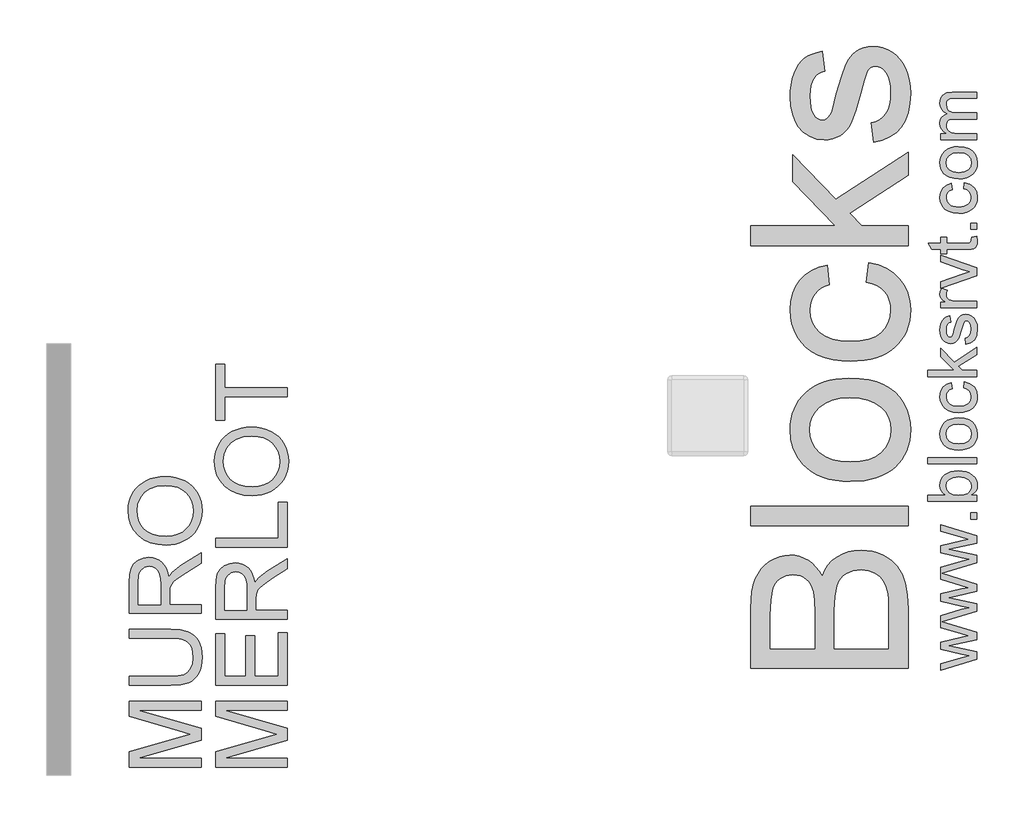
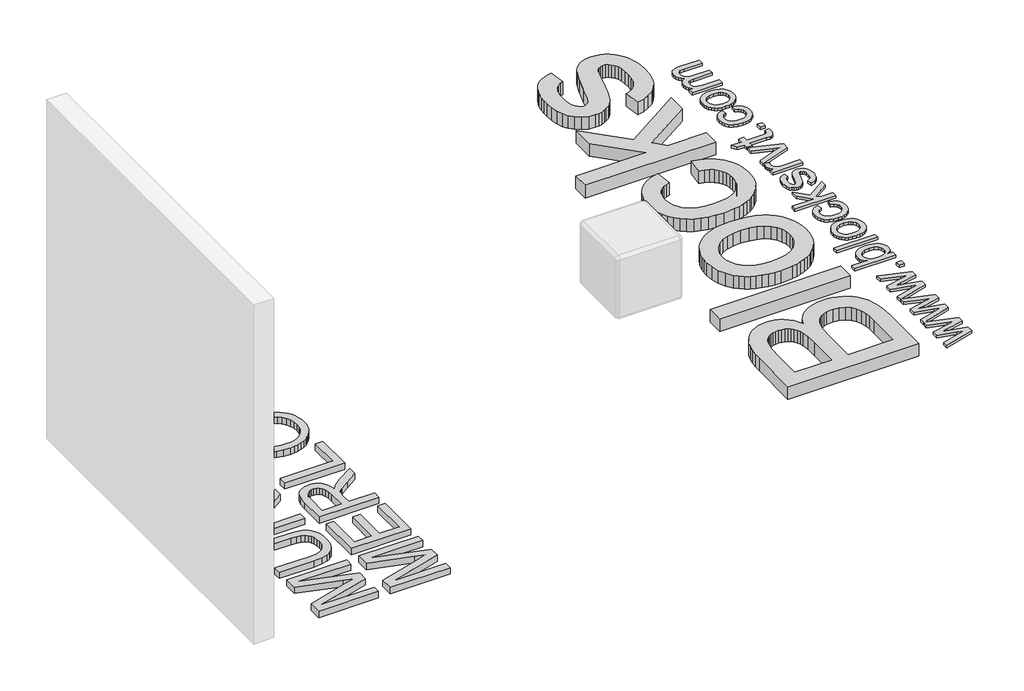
# One storey, part 11 of 11: 3 proxies.
"""IFC4 building model written with IfcOpenShell, lengths in millimetres."""

from ifc_helpers import new_model, si_unit, origin, origin_with_axes, place, context, project, spatial, polyline, outline, extrude, element, save

model = new_model("IFC4")

# Units and contexts
model_context = context("Model", 3, world=origin())
ifc_project = project(units=[si_unit("LENGTHUNIT", "METRE", prefix="MILLI")], contexts=[model_context])

# Site, building, storey
site = spatial("IfcSite", under=ifc_project)
building = spatial("IfcBuilding", under=site)
storey = spatial("IfcBuildingStorey", under=building, Name="PORTOBELLO - SHOWROOM", Elevation=0.0)

# Proxies
placement = place(None, origin())
element("IfcBuildingElementProxy", 1, Name="25mm OpenSans", ObjectType="25mm OpenSans", at=placement, inside=storey, context=model_context, shape_type="SweptSolid", body=[
    extrude(outline(polyline([(-17784.7872836, 5833.8034921), (-18002.4019578, 5767.607539), (-17784.7872836, 5700.9051688), (-17784.7872836, 5654.5069386), (-17917.0109961, 5625.0489346), (-17958.2372103, 5616.5038648), (-17784.7872836, 5578.5007909), (-17784.7872836, 5531.5778635), (-18002.4019578, 5465.3819104), (-17784.7872836, 5398.6795402), (-17784.7872836, 5352.28131), (-17917.0109961, 5322.823306), (-17958.2372103, 5314.2782361), (-17784.7872836, 5276.2751623), (-17784.7872836, 5229.3522348), (-18010.257197, 5160.7668057), (-18010.257197, 5200.6437984), (-17878.7080952, 5239.5463533), (-17831.710211, 5251.16465), (-17876.9840899, 5260.6841577), (-18010.257197, 5291.6412967), (-18010.257197, 5337.3649161), (-17877.3588737, 5368.1721416), (-17836.3575297, 5376.6422548), (-17879.6075763, 5388.7852488), (-18010.257197, 5427.7627604), (-18010.257197, 5462.9924344), (-18010.257197, 5467.7896666), (-18010.257197, 5502.869427), (-17878.7080952, 5541.7719819), (-17831.710211, 5553.3902786), (-17876.9840899, 5562.9097863), (-18010.257197, 5593.8669253), (-18010.257197, 5639.5905447), (-17877.3588737, 5670.3977703), (-17836.3575297, 5678.8678834), (-17879.6075763, 5691.0108774), (-18010.257197, 5729.988389), (-18010.257197, 5765.218063), (-18010.257197, 5770.0152952), (-18010.257197, 5805.0950556), (-17878.7080952, 5843.9976105), (-17831.710211, 5855.6159073), (-17876.9840899, 5865.1354149), (-18010.257197, 5896.092554), (-18010.257197, 5941.8161734), (-17877.3588737, 5972.6233989), (-17836.3575297, 5981.093512), (-17879.6075763, 5993.236506), (-18010.257197, 6032.2140176), (-18010.257197, 6072.2409238), (-17784.7872836, 6003.1307974), (-17784.7872836, 5956.7325672), (-17917.0109961, 5927.2745633), (-17958.2372103, 5918.7294934), (-17784.7872836, 5880.7264196), (-17784.7872836, 5833.8034921)])), origin_with_axes(), (0.0, 0.0, 1.0), 20.0),
    extrude(outline(polyline([(-17784.7872836, 6108.2201653), (-17823.1651412, 6108.2201653), (-17823.1651412, 6146.5980229), (-17784.7872836, 6146.5980229), (-17784.7872836, 6108.2201653)])), origin_with_axes(), (0.0, 0.0, 1.0), 20.0),
    extrude(outline(polyline([(-17784.7872836, 6256.9343635), (-17784.7872836, 6218.5565059), (-18091.8101444, 6218.5565059), (-18091.8101444, 6256.9343635), (-17977.9508364, 6256.9343635), (-17994.1836582, 6269.5552068), (-18005.778531, 6283.8063595), (-18012.7354546, 6299.6878216), (-18015.0544292, 6317.199593), (-18012.9650097, 6336.9694367), (-18006.6967512, 6355.6524074), (-17996.6431767, 6372.1803715), (-17983.1978091, 6385.4851951), (-17966.4918228, 6395.9135534), (-17946.656392, 6403.8121213), (-17924.516041, 6408.7873758), (-17900.8952942, 6410.4457939), (-17873.6391448, 6408.7288158), (-17849.6623534, 6403.5778814), (-17828.96492, 6394.9929908), (-17811.5468444, 6382.9741439), (-17797.7407475, 6368.5473113), (-17787.8792496, 6352.7384636), (-17781.9623509, 6335.5476008), (-17779.9900514, 6316.9747228), (-17782.5338962, 6298.8867213), (-17790.1654306, 6282.8506609), (-17802.8846547, 6268.8665417), (-17820.6915683, 6256.9343635), (-17784.7872836, 6256.9343635)]), holes=[polyline([(-17899.0963321, 6256.9343635), (-17867.0897985, 6259.5578499), (-17845.4272969, 6267.428309), (-17833.5888147, 6276.7276311), (-17825.1327559, 6287.535458), (-17820.0591207, 6299.8517895), (-17818.367909, 6313.6766256), (-17823.3525331, 6335.8263462), (-17838.3064053, 6354.7529264), (-17863.1358298, 6367.7391838), (-17897.7471105, 6372.0679363), (-17932.8643494, 6367.9172061), (-17957.412686, 6355.4650155), (-17971.8606002, 6337.1287198), (-17976.6765716, 6315.3256742), (-17971.6919475, 6293.1759537), (-17956.7380753, 6274.2493735), (-17932.3583913, 6261.263116), (-17899.0963321, 6256.9343635)])]), origin_with_axes(), (0.0, 0.0, 1.0), 20.0),
    extrude(outline(polyline([(-17784.7872836, 6453.6208837), (-18091.8101444, 6453.6208837), (-18091.8101444, 6491.9987413), (-17784.7872836, 6491.9987413), (-17784.7872836, 6453.6208837)])), origin_with_axes(), (0.0, 0.0, 1.0), 20.0),
    extrude(outline(polyline([(-17897.5222403, 6539.9710633), (-17926.7225804, 6542.0464284), (-17951.8846255, 6548.2725238), (-17973.0083755, 6558.6493493), (-17990.0938304, 6573.176905), (-18001.0140924, 6587.8028414), (-18008.8142795, 6603.9466521), (-18013.4943918, 6621.6083371), (-18015.0544292, 6640.7878963), (-18013.154744, 6661.9608367), (-18007.4556883, 6681.1052599), (-17997.9572623, 6698.221166), (-17984.6594658, 6713.308555), (-17968.0120394, 6725.6225441), (-17948.4647236, 6734.4182506), (-17926.0175185, 6739.6956745), (-17900.6704239, 6741.4548158), (-17861.8990434, 6738.3441105), (-17832.3848218, 6729.0119947), (-17810.2819492, 6713.7301867), (-17793.7446156, 6692.7704046), (-17783.4286924, 6667.875393), (-17779.9900514, 6640.7878963), (-17781.8827094, 6619.3057593), (-17787.5606834, 6599.9833138), (-17797.0239735, 6582.8205598), (-17810.2725796, 6567.8174971), (-17827.0816315, 6555.6346824), (-17847.2262589, 6546.9326718), (-17870.7064619, 6541.7114655), (-17897.5222403, 6539.9710633)]), holes=[polyline([(-17897.597197, 6578.3489209), (-17862.8641116, 6582.7901086), (-17838.1190134, 6596.1136714), (-17823.3056851, 6616.1646029), (-17818.367909, 6640.7878963), (-17823.3337939, 6665.2987546), (-17838.2314486, 6685.3122077), (-17849.4655919, 6693.084286), (-17863.3044825, 6698.6357705), (-17898.7965051, 6703.0769582), (-17932.5176744, 6698.6076618), (-17956.9254671, 6685.1997725), (-17971.7387955, 6665.1582107), (-17976.6765716, 6640.7878963), (-17971.7575347, 6616.1646029), (-17957.0004239, 6596.1136714), (-17932.3115433, 6582.7901086), (-17897.597197, 6578.3489209)])]), origin_with_axes(), (0.0, 0.0, 1.0), 20.0),
    extrude(outline(polyline([(-17866.340231, 6928.5468716), (-17861.5429988, 6966.9247292), (-17827.4095673, 6956.2246527), (-17801.6150747, 6936.1175036), (-17785.3963072, 6908.4959401), (-17779.9900514, 6875.2526201), (-17781.8756822, 6853.72832), (-17787.5325747, 6834.4292984), (-17796.9607288, 6817.3555555), (-17810.1601445, 6802.5070912), (-17826.8825277, 6790.4882443), (-17846.8795839, 6781.9033537), (-17870.1513134, 6776.7524193), (-17896.697716, 6775.0354412), (-17930.8498866, 6777.9681241), (-17960.4484345, 6786.766173), (-17984.3502692, 6801.5701318), (-18001.4123001, 6822.5205443), (-18011.6438969, 6847.5842086), (-18015.0544292, 6874.7279228), (-18010.3696321, 6907.1560882), (-17996.3152409, 6933.0817551), (-17973.6408231, 6951.6803995), (-17943.0959462, 6962.127497), (-17938.298714, 6923.7496394), (-17955.0421787, 6916.7880309), (-17967.0446288, 6905.9474105), (-17974.2685859, 6891.8274321), (-17976.6765716, 6875.0277498), (-17971.935557, 6850.2264342), (-17957.712513, 6830.5409169), (-17946.8531534, 6823.0475839), (-17933.2391331, 6817.6952033), (-17897.7471105, 6813.4132988), (-17861.7772386, 6817.6015074), (-17837.2195324, 6830.1661331), (-17823.0808148, 6849.4956058), (-17818.367909, 6873.9783553), (-17821.3099615, 6893.8512645), (-17830.1361192, 6910.1449887), (-17845.0712523, 6921.9975253), (-17866.340231, 6928.5468716)])), origin_with_axes(), (0.0, 0.0, 1.0), 20.0),
    extrude(outline(polyline([(-17784.7872836, 7000.5053546), (-18091.8101444, 7000.5053546), (-18091.8101444, 7038.8832122), (-17926.8303308, 7038.8832122), (-18010.257197, 7124.9335648), (-18010.257197, 7178.002946), (-17925.7809362, 7090.9031989), (-17784.7872836, 7182.8001782), (-17784.7872836, 7137.9760398), (-17899.0963321, 7063.3940705), (-17875.3350414, 7038.8832122), (-17784.7872836, 7038.8832122), (-17784.7872836, 7000.5053546)])), origin_with_axes(), (0.0, 0.0, 1.0), 20.0),
    extrude(outline(polyline([(-17851.9485344, 7201.989107), (-17856.7457666, 7240.3669646), (-17840.3302376, 7246.4197224), (-17828.2622004, 7258.1317151), (-17820.8414818, 7275.5778994), (-17818.367909, 7298.833232), (-17820.6353508, 7321.8074769), (-17827.4376761, 7337.9606572), (-17837.2944891, 7347.5176432), (-17848.725394, 7350.7033052), (-17858.5072503, 7347.498904), (-17865.9654472, 7337.8857004), (-17876.9091332, 7298.3834915), (-17895.6857998, 7240.5918349), (-17905.1209811, 7225.9658984), (-17917.6106501, 7215.3688874), (-17932.3583913, 7208.9319763), (-17948.5677892, 7206.7863392), (-17963.4373351, 7208.5103445), (-17977.1637905, 7213.6823605), (-17989.203719, 7221.8339074), (-17999.013684, 7232.4965055), (-18010.3696321, 7256.8949287), (-18015.0544292, 7289.9133784), (-18013.1711408, 7314.8927164), (-18007.5212755, 7336.6114356), (-17998.6576394, 7354.0763591), (-17987.1330387, 7366.2943099), (-17972.0948401, 7374.3896392), (-17952.6904106, 7379.4866984), (-17947.8931784, 7341.1088408), (-17959.9705852, 7336.2647606), (-17969.0684611, 7326.6796658), (-17974.774544, 7312.2598605), (-17976.6765716, 7292.9116485), (-17974.8588703, 7270.8743631), (-17969.4057665, 7256.1828395), (-17961.5353075, 7247.9188575), (-17952.4655403, 7245.1641968), (-17941.2969841, 7249.7365587), (-17932.826871, 7264.0532986), (-17924.6565849, 7297.1092267), (-17906.5920074, 7353.4392267), (-17897.9532416, 7368.3181422), (-17886.1288138, 7379.5991335), (-17871.0812456, 7386.7106555), (-17852.7730587, 7389.0811628), (-17833.8464785, 7386.2983934), (-17816.0442496, 7377.950085), (-17800.7624416, 7364.3548039), (-17789.3971239, 7345.8311163), (-17782.3418195, 7323.4565255), (-17779.9900514, 7298.3085348), (-17784.5249349, 7259.612111), (-17790.1935394, 7244.1850742), (-17798.1295856, 7231.3721542), (-17820.6540899, 7212.5205308), (-17851.9485344, 7201.989107)])), origin_with_axes(), (0.0, 0.0, 1.0), 20.0),
    extrude(outline(polyline([(-17784.7872836, 7631.4913024), (-18010.257197, 7552.1870576), (-18010.257197, 7592.8136178), (-17875.1851278, 7640.8608966), (-17829.7613355, 7655.3275499), (-17872.6365982, 7669.4943763), (-18010.257197, 7717.841482), (-18010.257197, 7758.4680422), (-17784.7872836, 7680.1382352), (-17784.7872836, 7631.4913024)])), origin_with_axes(), (0.0, 0.0, 1.0), 20.0),
    extrude(outline(polyline([(-17784.7872836, 7432.2562526), (-18010.257197, 7432.2562526), (-18010.257197, 7465.836878), (-17976.9014418, 7465.836878), (-17996.2402842, 7478.2422207), (-18007.6337106, 7489.6731255), (-18013.1992496, 7501.1415087), (-18015.0544292, 7513.6592865), (-18012.0936374, 7532.7732586), (-18003.2112622, 7552.1870576), (-17968.8061125, 7539.3694528), (-17974.7089568, 7525.8772373), (-17976.6765716, 7512.3850217), (-17974.7839136, 7500.9260081), (-17969.1059395, 7490.6850417), (-17960.0736508, 7482.4116901), (-17948.1180486, 7476.8555207), (-17926.6804173, 7472.1894629), (-17903.2939103, 7470.6341102), (-17784.7872836, 7470.6341102), (-17784.7872836, 7432.2562526)])), origin_with_axes(), (0.0, 0.0, 1.0), 20.0),
    extrude(outline(polyline([(-17816.7938172, 7873.6016151), (-17783.6629323, 7878.3988473), (-17779.9900514, 7849.6904108), (-17781.5828824, 7831.2697887), (-17786.3613754, 7817.5339637), (-17793.7258764, 7807.8270642), (-17803.0767313, 7801.4932185), (-17819.1362157, 7798.0077295), (-17846.6266049, 7796.8458999), (-17971.8793394, 7796.8458999), (-17971.8793394, 7768.0625066), (-18010.257197, 7768.0625066), (-18010.257197, 7796.8458999), (-18065.0505835, 7796.8458999), (-18087.6125662, 7835.2237575), (-18010.257197, 7835.2237575), (-18010.257197, 7873.6016151), (-17971.8793394, 7873.6016151), (-17971.8793394, 7835.2237575), (-17847.7509562, 7835.2237575), (-17827.9623734, 7837.2475898), (-17820.953917, 7843.8063057), (-17818.367909, 7856.8862591), (-17816.7938172, 7873.6016151)])), origin_with_axes(), (0.0, 0.0, 1.0), 20.0),
    extrude(outline(polyline([(-17784.7872836, 7921.5739371), (-17823.1651412, 7921.5739371), (-17823.1651412, 7959.9517947), (-17784.7872836, 7959.9517947), (-17784.7872836, 7921.5739371)])), origin_with_axes(), (0.0, 0.0, 1.0), 20.0),
    extrude(outline(polyline([(-17866.340231, 8175.8272437), (-17861.5429988, 8214.2051013), (-17827.4095673, 8203.5050248), (-17801.6150747, 8183.3978757), (-17785.3963072, 8155.7763122), (-17779.9900514, 8122.5329922), (-17781.8756822, 8101.0086921), (-17787.5325747, 8081.7096705), (-17796.9607288, 8064.6359276), (-17810.1601445, 8049.7874633), (-17826.8825277, 8037.7686164), (-17846.8795839, 8029.1837258), (-17870.1513134, 8024.0327914), (-17896.697716, 8022.3158133), (-17930.8498866, 8025.2484962), (-17960.4484345, 8034.0465451), (-17984.3502692, 8048.8505039), (-18001.4123001, 8069.8009164), (-18011.6438969, 8094.8645807), (-18015.0544292, 8122.0082949), (-18010.3696321, 8154.4364603), (-17996.3152409, 8180.3621272), (-17973.6408231, 8198.9607716), (-17943.0959462, 8209.4078691), (-17938.298714, 8171.0300115), (-17955.0421787, 8164.068403), (-17967.0446288, 8153.2277826), (-17974.2685859, 8139.1078042), (-17976.6765716, 8122.3081219), (-17971.935557, 8097.5068063), (-17957.712513, 8077.821289), (-17946.8531534, 8070.327956), (-17933.2391331, 8064.9755754), (-17897.7471105, 8060.6936709), (-17861.7772386, 8064.8818795), (-17837.2195324, 8077.4465052), (-17823.0808148, 8096.7759779), (-17818.367909, 8121.2587274), (-17821.3099615, 8141.1316366), (-17830.1361192, 8157.4253608), (-17845.0712523, 8169.2778974), (-17866.340231, 8175.8272437)])), origin_with_axes(), (0.0, 0.0, 1.0), 20.0),
    extrude(outline(polyline([(-17897.5222403, 8238.1912623), (-17926.7225804, 8240.2666274), (-17951.8846255, 8246.4927227), (-17973.0083755, 8256.8695482), (-17990.0938304, 8271.3971039), (-18001.0140924, 8286.0230404), (-18008.8142795, 8302.1668511), (-18013.4943918, 8319.828536), (-18015.0544292, 8339.0080952), (-18013.154744, 8360.1810356), (-18007.4556883, 8379.3254588), (-17997.9572623, 8396.4413649), (-17984.6594658, 8411.5287539), (-17968.0120394, 8423.842743), (-17948.4647236, 8432.6384495), (-17926.0175185, 8437.9158734), (-17900.6704239, 8439.6750147), (-17861.8990434, 8436.5643094), (-17832.3848218, 8427.2321937), (-17810.2819492, 8411.9503856), (-17793.7446156, 8390.9906035), (-17783.4286924, 8366.0955919), (-17779.9900514, 8339.0080952), (-17781.8827094, 8317.5259583), (-17787.5606834, 8298.2035128), (-17797.0239735, 8281.0407587), (-17810.2725796, 8266.0376961), (-17827.0816315, 8253.8548813), (-17847.2262589, 8245.1528707), (-17870.7064619, 8239.9316644), (-17897.5222403, 8238.1912623)]), holes=[polyline([(-17897.597197, 8276.5691199), (-17862.8641116, 8281.0103075), (-17838.1190134, 8294.3338704), (-17823.3056851, 8314.3848018), (-17818.367909, 8339.0080952), (-17823.3337939, 8363.5189535), (-17838.2314486, 8383.5324066), (-17849.4655919, 8391.3044849), (-17863.3044825, 8396.8559695), (-17898.7965051, 8401.2971571), (-17932.5176744, 8396.8278607), (-17956.9254671, 8383.4199715), (-17971.7387955, 8363.3784096), (-17976.6765716, 8339.0080952), (-17971.7575347, 8314.3848018), (-17957.0004239, 8294.3338704), (-17932.3115433, 8281.0103075), (-17897.597197, 8276.5691199)])]), origin_with_axes(), (0.0, 0.0, 1.0), 20.0),
    extrude(outline(polyline([(-17784.7872836, 8482.8501045), (-18010.257197, 8482.8501045), (-18010.257197, 8521.2279621), (-17973.1536042, 8521.2279621), (-17990.1968959, 8532.7713021), (-18003.5485676, 8547.6127392), (-18012.1779638, 8565.2463154), (-18015.0544292, 8585.1660725), (-18012.1217462, 8606.510008), (-18003.3236973, 8623.6188869), (-17989.2411973, 8636.3990133), (-17970.4551611, 8644.7566913), (-17989.9673409, 8658.7454953), (-18003.9046122, 8674.7019141), (-18012.2669749, 8692.6259477), (-18015.0544292, 8712.5175961), (-18010.4164801, 8741.3665765), (-17996.5026328, 8762.7011423), (-17972.9381035, 8775.8841613), (-17939.3481085, 8780.2785009), (-17784.7872836, 8780.2785009), (-17784.7872836, 8741.9006433), (-17922.8576228, 8741.9006433), (-17954.9016348, 8738.3401976), (-17963.7371621, 8733.3368343), (-17970.6800313, 8725.447636), (-17975.1774365, 8715.3003656), (-17976.6765716, 8703.5227857), (-17972.835038, 8682.7316563), (-17961.3104372, 8665.7820605), (-17941.3157233, 8654.5104388), (-17912.0638504, 8650.7532315), (-17784.7872836, 8650.7532315), (-17784.7872836, 8612.3753739), (-17927.1301578, 8612.3753739), (-17948.8301378, 8610.1547801), (-17964.3087073, 8603.4929987), (-17973.5846055, 8591.7716364), (-17976.6765716, 8574.3723001), (-17974.6152609, 8559.5870805), (-17968.4313287, 8545.9636906), (-17958.2746887, 8534.7201777), (-17944.2952542, 8527.0745889), (-17924.9001944, 8522.6896188), (-17898.4966781, 8521.2279621), (-17784.7872836, 8521.2279621), (-17784.7872836, 8482.8501045)])), origin_with_axes(), (0.0, 0.0, 1.0), 20.0),
])
element("IfcBuildingElementProxy", 2, Name="450mm Arial", ObjectType="450mm Arial", at=placement, inside=storey, context=model_context, shape_type="SweptSolid", body=[
    extrude(outline(polyline([(-22640.8262917, 4554.1544482), (-23090.4824345, 4554.1544482), (-23090.4824345, 4650.8700395), (-22773.5495038, 4742.8651195), (-22707.3525667, 4761.4178265), (-22779.0384704, 4781.5074442), (-23090.4824345, 4871.9656136), (-23090.4824345, 4968.6812049), (-22640.8262917, 4968.6812049), (-22640.8262917, 4912.474187), (-23034.2754167, 4912.474187), (-22640.8262917, 4799.5112547), (-22640.8262917, 4723.3243984), (-23034.2754167, 4610.3614661), (-22640.8262917, 4610.3614661), (-22640.8262917, 4554.1544482)])), origin_with_axes(), (0.0, 0.0, 1.0), 50.0),
    extrude(outline(polyline([(-23090.4824345, 5362.1303298), (-23090.4824345, 5418.3373477), (-22831.0738736, 5418.3373477), (-22770.3247359, 5414.5225159), (-22723.5450182, 5403.0780206), (-22704.5737774, 5393.9183076), (-22687.4550628, 5381.6984957), (-22672.1888745, 5366.418585), (-22658.7752124, 5348.0785754), (-22647.8487383, 5326.6578833), (-22640.044114, 5302.135925), (-22635.3613393, 5274.5127007), (-22633.8004145, 5243.7882102), (-22639.2344914, 5186.7166801), (-22646.0270875, 5162.4726008), (-22655.5367221, 5141.0896454), (-22667.6227404, 5122.5643831), (-22682.1444877, 5106.8933835), (-22699.1019638, 5094.0766465), (-22718.4951689, 5084.1141722), (-22767.2509146, 5071.3111576), (-22831.0738736, 5067.0434861), (-23090.4824345, 5067.0434861), (-23090.4824345, 5123.250504), (-22833.0499016, 5123.250504), (-22782.5376866, 5126.0224321), (-22747.3671331, 5134.3382165), (-22723.0098439, 5149.4054297), (-22704.9374214, 5172.4316446), (-22693.7399296, 5202.4562918), (-22690.0074323, 5238.5188023), (-22691.8530973, 5269.4971575), (-22697.3900924, 5295.6863893), (-22706.6184174, 5317.0864978), (-22719.5380725, 5333.6974829), (-22737.706552, 5346.1368534), (-22762.6813499, 5355.0221181), (-22794.4624665, 5360.3532769), (-22833.0499016, 5362.1303298), (-23090.4824345, 5362.1303298)])), origin_with_axes(), (0.0, 0.0, 1.0), 50.0),
    extrude(outline(polyline([(-22640.8262917, 5516.6996289), (-23090.4824345, 5516.6996289), (-23090.4824345, 5710.4601495), (-23087.4497805, 5762.5367199), (-23078.3518183, 5800.4243118), (-23061.5555806, 5828.1161482), (-23035.4280996, 5849.6054524), (-23003.0294744, 5863.396481), (-22967.4198036, 5867.9934905), (-22944.3249767, 5866.0895052), (-22923.1238433, 5860.3775494), (-22903.8164033, 5850.8576229), (-22886.4026568, 5837.5297259), (-22871.4383616, 5820.2223282), (-22859.4792757, 5798.7638994), (-22850.5253989, 5773.1544397), (-22844.5767314, 5743.393949), (-22820.5350578, 5775.3397345), (-22762.6813499, 5820.8981572), (-22640.8262917, 5895.8774408), (-22640.8262917, 5830.5587384), (-22734.0289443, 5772.0463546), (-22795.7249288, 5729.7813118), (-22813.7150168, 5714.069145), (-22824.8713414, 5700.0860026), (-22835.5748262, 5673.3547353), (-22837.5508542, 5640.7502738), (-22837.5508542, 5572.9066468), (-22640.8262917, 5572.9066468), (-22640.8262917, 5516.6996289)]), holes=[polyline([(-22893.757872, 5572.9066468), (-22893.757872, 5698.713761), (-22895.7476224, 5734.8448835), (-22901.7168736, 5762.8797804), (-22912.0635756, 5783.9848569), (-22927.1856785, 5799.3265185), (-22945.4776597, 5808.6714841), (-22965.3339963, 5811.7864726), (-22979.7082276, 5810.3010211), (-22992.7513844, 5805.8446663), (-23014.8444749, 5788.0192473), (-23023.3455119, 5774.4100408), (-23029.4176812, 5757.3496465), (-23034.2754167, 5712.8752947), (-23034.2754167, 5572.9066468), (-22893.757872, 5572.9066468)])]), origin_with_axes(), (0.0, 0.0, 1.0), 50.0),
    extrude(outline(polyline([(-22859.7262792, 5945.27814), (-22912.4683869, 5949.0243597), (-22959.1589089, 5960.2630188), (-22999.7978453, 5978.9941173), (-23034.385196, 6005.2176552), (-23062.0015591, 6037.3624158), (-23081.7275328, 6073.8571824), (-23093.563117, 6114.701955), (-23097.5083117, 6159.8967336), (-23095.6557855, 6190.1478007), (-23090.0982068, 6218.8756796), (-23080.8355757, 6246.0803702), (-23067.8678922, 6271.7618727), (-23051.586245, 6295.19976), (-23032.3817232, 6315.6736053), (-23010.2543266, 6333.1834088), (-22985.2040554, 6347.7291702), (-22957.8003897, 6359.1599431), (-22928.6128099, 6367.3247809), (-22897.6413159, 6372.2236836), (-22864.8859078, 6373.8566512), (-22831.6982435, 6372.1379185), (-22800.3082159, 6366.9817205), (-22770.7158248, 6358.3880572), (-22742.9210702, 6346.3569286), (-22717.6581015, 6331.1730747), (-22695.6610679, 6313.1212359), (-22676.9299694, 6292.201412), (-22661.4648061, 6268.413603), (-22649.3616347, 6242.694364), (-22640.7165124, 6215.9802497), (-22635.5294389, 6188.2712603), (-22633.8004145, 6159.5673956), (-22635.711261, 6128.7880155), (-22641.4438004, 6099.6827701), (-22650.9980329, 6072.2516596), (-22664.3739583, 6046.4946839), (-22681.0535556, 6023.0842414), (-22700.5188033, 6002.6927305), (-22722.7697016, 5985.3201513), (-22747.8062505, 5970.9665037), (-22774.6232829, 5959.7278446), (-22802.2156318, 5951.700231), (-22830.5832972, 5946.8836628), (-22859.7262792, 5945.27814)]), holes=[polyline([(-22859.1773825, 6001.4851579), (-22821.9141606, 6004.2948227), (-22788.8362757, 6012.723817), (-22759.9437278, 6026.7721408), (-22735.236517, 6046.4397942), (-22715.4487924, 6070.3476743), (-22701.3147035, 6097.1166783), (-22692.8342501, 6126.746806), (-22690.0074323, 6159.2380576), (-22692.8616949, 6192.2850671), (-22701.4244828, 6222.2651165), (-22715.6957959, 6249.1782057), (-22735.6756343, 6273.024335), (-22760.904297, 6292.547903), (-22790.922083, 6306.4933087), (-22825.7289924, 6314.8605522), (-22865.3250251, 6317.6496333), (-22915.0825072, 6312.8742324), (-22958.0885604, 6298.5480296), (-22993.2591138, 6275.0415302), (-23019.5100965, 6242.7252394), (-23035.8534945, 6203.7398542), (-23041.3012939, 6160.2260716), (-23038.6768817, 6128.8634888), (-23030.8036453, 6099.7651046), (-23017.6815845, 6072.9309192), (-22999.3106995, 6048.3609326), (-22974.8058943, 6027.8527811), (-22943.2820731, 6013.2041016), (-22904.7392358, 6004.4148938), (-22859.1773825, 6001.4851579)])]), origin_with_axes(), (0.0, 0.0, 1.0), 50.0),
    extrude(outline(polyline([(-22100.3942085, 4554.1544482), (-22550.0503513, 4554.1544482), (-22550.0503513, 4650.8700395), (-22233.1174206, 4742.8651195), (-22166.9204835, 4761.4178265), (-22238.6063872, 4781.5074442), (-22550.0503513, 4871.9656136), (-22550.0503513, 4968.6812049), (-22100.3942085, 4968.6812049), (-22100.3942085, 4912.474187), (-22493.8433335, 4912.474187), (-22100.3942085, 4799.5112547), (-22100.3942085, 4723.3243984), (-22493.8433335, 4610.3614661), (-22100.3942085, 4610.3614661), (-22100.3942085, 4554.1544482)])), origin_with_axes(), (0.0, 0.0, 1.0), 50.0),
    extrude(outline(polyline([(-22100.3942085, 5067.0434861), (-22550.0503513, 5067.0434861), (-22550.0503513, 5390.2338388), (-22493.8433335, 5390.2338388), (-22493.8433335, 5123.250504), (-22360.3516661, 5123.250504), (-22360.3516661, 5376.1820843), (-22304.1446482, 5376.1820843), (-22304.1446482, 5123.250504), (-22156.6012264, 5123.250504), (-22156.6012264, 5397.259716), (-22100.3942085, 5397.259716), (-22100.3942085, 5067.0434861)])), origin_with_axes(), (0.0, 0.0, 1.0), 50.0),
    extrude(outline(polyline([(-22100.3942085, 5481.5702428), (-22550.0503513, 5481.5702428), (-22550.0503513, 5675.3307633), (-22547.0176973, 5727.4073338), (-22537.9197352, 5765.2949257), (-22521.1234974, 5792.9867621), (-22494.9960165, 5814.4760663), (-22462.5973912, 5828.2670948), (-22426.9877204, 5832.8641043), (-22403.8928935, 5830.9601191), (-22382.6917601, 5825.2481632), (-22363.3843201, 5815.7282368), (-22345.9705736, 5802.4003398), (-22331.0062785, 5785.092942), (-22319.0471925, 5763.6345133), (-22310.0933158, 5738.0250535), (-22304.1446482, 5708.2645628), (-22280.1029746, 5740.2103484), (-22222.2492667, 5785.768771), (-22100.3942085, 5860.7480546), (-22100.3942085, 5795.4293522), (-22193.5968612, 5736.9169684), (-22255.2928456, 5694.6519257), (-22273.2829336, 5678.9397588), (-22284.4392582, 5664.9566164), (-22295.142743, 5638.2253492), (-22297.118771, 5605.6208876), (-22297.118771, 5537.7772606), (-22100.3942085, 5537.7772606), (-22100.3942085, 5481.5702428)]), holes=[polyline([(-22353.3257888, 5537.7772606), (-22353.3257888, 5663.5843748), (-22355.3155392, 5699.7154974), (-22361.2847904, 5727.7503942), (-22371.6314924, 5748.8554707), (-22386.7535954, 5764.1971323), (-22405.0455765, 5773.542098), (-22424.9019131, 5776.6570865), (-22439.2761444, 5775.1716349), (-22452.3193012, 5770.7152802), (-22474.4123918, 5752.8898612), (-22482.9134288, 5739.2806546), (-22488.985598, 5722.2202604), (-22493.8433335, 5677.7459086), (-22493.8433335, 5537.7772606), (-22353.3257888, 5537.7772606)])]), origin_with_axes(), (0.0, 0.0, 1.0), 50.0),
    extrude(outline(polyline([(-22100.3942085, 5931.2263856), (-22550.0503513, 5931.2263856), (-22550.0503513, 5987.4334034), (-22156.6012264, 5987.4334034), (-22156.6012264, 6212.2614748), (-22100.3942085, 6212.2614748), (-22100.3942085, 5931.2263856)])), origin_with_axes(), (0.0, 0.0, 1.0), 50.0),
    extrude(outline(polyline([(-22319.294196, 6254.4167382), (-22372.0363037, 6258.1629579), (-22418.7268257, 6269.401617), (-22459.3657621, 6288.1327155), (-22493.9531128, 6314.3562534), (-22521.569476, 6346.5010139), (-22541.2954496, 6382.9957805), (-22553.1310338, 6423.8405532), (-22557.0762286, 6469.0353318), (-22555.2237023, 6499.2863989), (-22549.6661237, 6528.0142778), (-22540.4034926, 6555.2189684), (-22527.435809, 6580.9004708), (-22511.1541619, 6604.3383582), (-22491.94964, 6624.8122035), (-22469.8222435, 6642.3220069), (-22444.7719722, 6656.8677684), (-22417.3683065, 6668.2985413), (-22388.1807267, 6676.4633791), (-22357.2092327, 6681.3622818), (-22324.4538246, 6682.9952494), (-22291.2661604, 6681.2765167), (-22259.8761327, 6676.1203187), (-22230.2837416, 6667.5266554), (-22202.488987, 6655.4955268), (-22177.2260183, 6640.3116729), (-22155.2289847, 6622.2598341), (-22136.4978862, 6601.3400102), (-22121.0327229, 6577.5522012), (-22108.9295516, 6551.8329622), (-22100.2844292, 6525.1188479), (-22095.0973558, 6497.4098584), (-22093.3683313, 6468.7059938), (-22095.2791778, 6437.9266137), (-22101.0117173, 6408.8213683), (-22110.5659497, 6381.3902578), (-22123.9418752, 6355.6332821), (-22140.6214724, 6332.2228396), (-22160.0867201, 6311.8313287), (-22182.3376184, 6294.4587495), (-22207.3741673, 6280.1051019), (-22234.1911997, 6268.8664428), (-22261.7835486, 6260.8388291), (-22290.151214, 6256.022261), (-22319.294196, 6254.4167382)]), holes=[polyline([(-22318.7452993, 6310.6237561), (-22281.4820774, 6313.4334209), (-22248.4041925, 6321.8624152), (-22219.5116447, 6335.910739), (-22194.8044338, 6355.5783924), (-22175.0167093, 6379.4862725), (-22160.8826203, 6406.2552765), (-22152.4021669, 6435.8854042), (-22149.5753491, 6468.3766558), (-22152.4296118, 6501.4236653), (-22160.9923996, 6531.4037146), (-22175.2637128, 6558.3168039), (-22195.2435511, 6582.1629332), (-22220.4722138, 6601.6865012), (-22250.4899998, 6615.6319069), (-22285.2969092, 6623.9991504), (-22324.8929419, 6626.7882315), (-22374.650424, 6622.0128306), (-22417.6564772, 6607.6866278), (-22452.8270307, 6584.1801284), (-22479.0780134, 6551.8638376), (-22495.4214114, 6512.8784524), (-22500.8692107, 6469.3646698), (-22498.2447986, 6438.0020869), (-22490.3715621, 6408.9037028), (-22477.2495014, 6382.0695174), (-22458.8786163, 6357.4995307), (-22434.3738111, 6336.9913793), (-22402.8499899, 6322.3426998), (-22364.3071526, 6313.553492), (-22318.7452993, 6310.6237561)])]), origin_with_axes(), (0.0, 0.0, 1.0), 50.0),
    extrude(outline(polyline([(-22100.3942085, 6872.6939346), (-22493.8433335, 6872.6939346), (-22493.8433335, 6725.1505127), (-22550.0503513, 6725.1505127), (-22550.0503513, 7076.4443743), (-22493.8433335, 7076.4443743), (-22493.8433335, 6928.9009525), (-22100.3942085, 6928.9009525), (-22100.3942085, 6872.6939346)])), origin_with_axes(), (0.0, 0.0, 1.0), 50.0),
])
element("IfcBuildingElementProxy", 3, Name="80mm OpenSans", ObjectType="80mm OpenSans", at=placement, inside=storey, context=model_context, shape_type="SweptSolid", body=[
    extrude(outline(polyline([(-18214.2307062, 5174.2572505), (-19198.7722254, 5174.2572505), (-19198.7722254, 5549.9502179), (-19196.9619646, 5604.4458289), (-19191.5311821, 5653.2778023), (-19182.479878, 5696.4461381), (-19169.8080523, 5733.9508363), (-19153.3804987, 5766.7458518), (-19133.0620111, 5795.7851395), (-19108.8525894, 5821.0686993), (-19080.7522337, 5842.5965313), (-19050.3458611, 5859.7902534), (-19019.2183888, 5872.0714834), (-18987.3698167, 5879.4402214), (-18954.8001449, 5881.8964674), (-18924.7167649, 5879.8308171), (-18895.5197366, 5873.6338662), (-18867.2090601, 5863.3056146), (-18839.7847355, 5848.8460624), (-18814.1030685, 5830.2101409), (-18791.0203652, 5807.3527812), (-18770.5366255, 5780.2739835), (-18752.6518495, 5748.9737477), (-18736.817701, 5786.117896), (-18716.2363124, 5818.7101022), (-18690.9076838, 5846.7503663), (-18660.8318153, 5870.2386882), (-18626.9251043, 5888.7994952), (-18590.1039486, 5902.0572145), (-18550.368348, 5910.011846), (-18507.7183027, 5912.6633899), (-18472.7674994, 5910.8531291), (-18439.0635977, 5905.4223466), (-18406.6065977, 5896.3710425), (-18375.3964994, 5883.6992168), (-18346.5675324, 5868.3533128), (-18321.2539268, 5851.2797741), (-18299.4556824, 5832.4786005), (-18281.1727993, 5811.9497921), (-18252.1485345, 5763.7863383), (-18231.1765503, 5704.8664799), (-18218.4671672, 5633.2672843), (-18214.2307062, 5547.0658189), (-18214.2307062, 5174.2572505)]), holes=[polyline([(-18798.8022332, 5297.3249404), (-18798.8022332, 5522.0676944), (-18801.4462657, 5600.6675667), (-18809.3783629, 5653.3078481), (-18817.3630402, 5677.8928426), (-18827.6161772, 5699.2479111), (-18840.1377739, 5717.3730536), (-18854.9278301, 5732.2682702), (-18871.8811856, 5743.8884922), (-18890.8926799, 5752.1886507), (-18911.9623131, 5757.1687458), (-18935.0900851, 5758.8287775), (-18957.2338565, 5757.2814177), (-18977.99552, 5752.639338), (-18997.3750757, 5744.9025387), (-19015.3725235, 5734.0710196), (-19031.3193439, 5720.3551015), (-19044.5470173, 5703.9651052), (-19055.0555438, 5684.9010307), (-19062.8449234, 5663.162878), (-19072.4896325, 5600.5473834), (-19075.7045355, 5505.0016671), (-19075.7045355, 5297.3249404), (-18798.8022332, 5297.3249404)]), polyline([(-18337.2983961, 5297.3249404), (-18337.2983961, 5549.7098513), (-18338.500229, 5604.9941652), (-18342.1057278, 5641.0491524), (-18352.7719948, 5683.4438083), (-18368.9066016, 5718.3270085), (-18392.0118393, 5746.6902651), (-18423.589999, 5769.5250904), (-18462.228927, 5784.5780476), (-18506.5164697, 5789.5957), (-18557.9549183, 5783.7067187), (-18580.9700185, 5776.3454922), (-18602.1823693, 5766.039775), (-18620.9835429, 5752.4365287), (-18636.7651113, 5735.182715), (-18649.5270745, 5714.2783339), (-18659.2694325, 5689.7233853), (-18671.6182656, 5625.3351871), (-18675.7345434, 5537.6915222), (-18675.7345434, 5297.3249404), (-18337.2983961, 5297.3249404)])]), origin_with_axes(), (0.0, 0.0, 1.0), 100.0),
    extrude(outline(polyline([(-18214.2307062, 6066.4980023), (-19198.7722254, 6066.4980023), (-19198.7722254, 6189.5656922), (-18214.2307062, 6189.5656922), (-18214.2307062, 6066.4980023)])), origin_with_axes(), (0.0, 0.0, 1.0), 100.0),
    extrude(outline(polyline([(-18575.7420453, 6343.4003045), (-18624.1796673, 6345.064092), (-18669.3798518, 6350.0554543), (-18711.342599, 6358.3743914), (-18750.0679088, 6370.0209035), (-18785.5557812, 6384.9949904), (-18817.8062161, 6403.2966522), (-18846.8192137, 6424.9258888), (-18872.5947739, 6449.8827003), (-18907.6131803, 6496.7842296), (-18932.6263277, 6548.5531821), (-18947.6342161, 6605.189558), (-18952.6368456, 6666.6933571), (-18951.113898, 6701.4544961), (-18946.5450551, 6734.589405), (-18938.9303169, 6766.0980837), (-18928.2696834, 6795.9805323), (-18914.5631546, 6824.2367507), (-18897.8107306, 6850.866739), (-18878.0124113, 6875.8704971), (-18855.1681967, 6899.248025), (-18829.6386367, 6920.4021621), (-18801.7842812, 6938.7357475), (-18771.6051301, 6954.2487814), (-18739.1011835, 6966.9412636), (-18704.2724414, 6976.8131943), (-18667.1189037, 6983.8645733), (-18585.8374417, 6989.5056765), (-18519.9619754, 6987.0118732), (-18461.5078273, 6979.5304634), (-18410.4749974, 6967.0614469), (-18366.8634857, 6949.6048239), (-18329.1935355, 6927.3784266), (-18295.9853899, 6900.600087), (-18267.239049, 6869.2698054), (-18242.9545128, 6833.3875816), (-18223.6575831, 6794.3505464), (-18209.8740619, 6753.5558306), (-18201.6039492, 6711.0034342), (-18198.847245, 6666.6933571), (-18204.9165012, 6597.805797), (-18212.5030714, 6565.9591028), (-18223.1242698, 6535.8437991), (-18236.7800962, 6507.459886), (-18253.4705507, 6480.8073633), (-18273.1956333, 6455.8862312), (-18295.9553441, 6432.6964897), (-18321.5694079, 6411.7676963), (-18349.85755, 6393.6294087), (-18380.8197704, 6378.2816269), (-18414.4560689, 6365.7243508), (-18450.7664457, 6355.9575806), (-18489.7509007, 6348.9813161), (-18575.7420453, 6343.4003045)]), holes=[polyline([(-18575.9824119, 6466.4679944), (-18516.2888736, 6470.0284244), (-18464.602547, 6480.7097144), (-18420.9234322, 6498.5118644), (-18385.2515292, 6523.4348743), (-18357.5417692, 6553.7511095), (-18337.7490835, 6587.732935), (-18325.873472, 6625.3803509), (-18321.9149349, 6666.6933571), (-18325.8960064, 6707.7960426), (-18337.8392209, 6745.2932294), (-18357.7445785, 6779.1849174), (-18385.6120791, 6809.4711067), (-18421.6370205, 6834.3941167), (-18466.0147007, 6852.1962666), (-18518.7451196, 6862.8775566), (-18579.8282772, 6866.4379866), (-18637.6289287, 6862.8550222), (-18687.9631932, 6852.1061292), (-18730.8310708, 6834.1913074), (-18766.2325614, 6809.1105568), (-18793.9423214, 6778.7116957), (-18813.7350071, 6744.842542), (-18825.6106186, 6707.5030958), (-18829.5691557, 6666.6933571), (-18825.6256415, 6625.3803509), (-18813.7950988, 6587.732935), (-18794.0775276, 6553.7511095), (-18766.472928, 6523.4348743), (-18730.9061853, 6498.5118644), (-18687.3021851, 6480.7097144), (-18635.6609273, 6470.0284244), (-18575.9824119, 6466.4679944)])]), origin_with_axes(), (0.0, 0.0, 1.0), 100.0),
    extrude(outline(polyline([(-18475.7495473, 7589.4606647), (-18460.366086, 7712.5283546), (-18402.2950222, 7699.1429406), (-18350.9091538, 7678.2160251), (-18306.2084811, 7649.7476081), (-18268.1930039, 7613.7376895), (-18237.8542344, 7571.7035835), (-18216.1836847, 7525.1626041), (-18203.1813549, 7474.1147513), (-18198.847245, 7418.5600251), (-18204.8939668, 7349.5372588), (-18212.4523691, 7317.7018318), (-18223.0341323, 7287.6503754), (-18236.6392564, 7259.3828898), (-18253.2677414, 7232.899375), (-18272.9195873, 7208.1998308), (-18295.5947942, 7185.2842574), (-18321.0943084, 7164.6371436), (-18349.2190763, 7146.7429783), (-18379.969098, 7131.6017615), (-18413.3443735, 7119.2134932), (-18449.3449027, 7109.5781734), (-18487.9706857, 7102.6958022), (-18573.0980129, 7097.1899052), (-18629.6818086, 7099.5409908), (-18682.6150368, 7106.5942477), (-18731.8976975, 7118.3496758), (-18777.5297908, 7134.8072752), (-18818.594919, 7156.0797177), (-18854.1766845, 7182.2796751), (-18884.2750875, 7213.4071475), (-18908.8901277, 7249.4621348), (-18928.0293168, 7288.8146511), (-18941.7001661, 7329.8347105), (-18949.9026758, 7372.5223132), (-18952.6368456, 7416.877459), (-18948.8811178, 7471.4782303), (-18937.6139343, 7520.8660515), (-18918.8352951, 7565.0409223), (-18892.5452002, 7604.002843), (-18859.344566, 7637.0908052), (-18819.8343092, 7663.6438011), (-18774.0144295, 7683.6618305), (-18721.8849271, 7697.1448934), (-18706.5014658, 7574.0772035), (-18735.2478067, 7564.4700517), (-18760.193351, 7551.7531572), (-18781.3380988, 7535.9265201), (-18798.68205, 7516.9901403), (-18812.1951587, 7495.4247511), (-18821.8473793, 7471.7110855), (-18827.6387116, 7445.8491436), (-18829.5691557, 7417.8389253), (-18825.7683591, 7376.0226515), (-18814.3659694, 7338.3076326), (-18795.3619865, 7304.6938684), (-18768.7564105, 7275.181359), (-18733.933302, 7251.1522123), (-18690.2767216, 7233.988536), (-18637.7866692, 7223.6903303), (-18576.4631451, 7220.2575951), (-18514.2157118, 7223.6152157), (-18461.1172316, 7233.6880778), (-18417.1677044, 7250.4761813), (-18382.3671302, 7273.9795261), (-18355.9192948, 7302.9061419), (-18337.0279837, 7335.9640584), (-18325.6931971, 7373.1532755), (-18321.9149349, 7414.4737932), (-18324.273532, 7447.7720762), (-18331.3493232, 7478.2009832), (-18343.1423087, 7505.7605141), (-18359.6524882, 7530.4506689), (-18381.0601369, 7551.5803937), (-18407.5455297, 7568.4586347), (-18439.1086665, 7581.0853917), (-18475.7495473, 7589.4606647)])), origin_with_axes(), (0.0, 0.0, 1.0), 100.0),
    extrude(outline(polyline([(-18214.2307062, 7820.2125833), (-19198.7722254, 7820.2125833), (-19198.7722254, 7943.2802732), (-18669.7253788, 7943.2802732), (-18937.2533844, 8219.2211091), (-18937.2533844, 8389.4006491), (-18666.3602467, 8110.094681), (-18214.2307062, 8404.7841103), (-18214.2307062, 8261.0448944), (-18580.7897435, 8021.8801455), (-18504.5935371, 7943.2802732), (-18214.2307062, 7943.2802732), (-18214.2307062, 7820.2125833)])), origin_with_axes(), (0.0, 0.0, 1.0), 100.0),
    extrude(outline(polyline([(-18429.5991636, 8466.3179553), (-18444.9826248, 8589.3856452), (-18416.9198264, 8596.8219863), (-18392.3423434, 8608.7952466), (-18371.2501758, 8625.3054262), (-18353.6433237, 8646.3525251), (-18339.7621536, 8671.9966348), (-18329.8470321, 8702.297847), (-18323.8979592, 8737.2561617), (-18321.9149349, 8776.871579), (-18323.7327072, 8816.4419275), (-18329.186024, 8850.5439363), (-18338.2748854, 8879.1776054), (-18350.9992913, 8902.3429347), (-18366.1724318, 8920.2201992), (-18382.6074968, 8932.9896739), (-18400.3044864, 8940.6513587), (-18419.2634005, 8943.2052536), (-18435.8787405, 8940.6363358), (-18450.6312395, 8932.9295822), (-18463.5208974, 8920.084993), (-18474.5477144, 8902.1025681), (-18490.1715422, 8856.0122761), (-18509.6412353, 8775.4293795), (-18542.1207697, 8663.1180941), (-18569.8530641, 8590.1067449), (-18583.7567685, 8565.0410173), (-18600.1092075, 8543.2052156), (-18618.9103811, 8524.5993399), (-18640.1602892, 8509.2233901), (-18663.2204582, 8497.1825267), (-18687.4524142, 8488.5819099), (-18712.8561573, 8483.4215399), (-18739.4316875, 8481.7014165), (-18787.1144082, 8487.2298479), (-18831.1315385, 8503.815142), (-18869.7404207, 8529.9550078), (-18901.1983971, 8564.1471541), (-18920.9985943, 8598.1289796), (-18937.6139343, 8642.3864765), (-18948.8811178, 8693.5545126), (-18952.6368456, 8748.2679558), (-18951.127043, 8789.6260307), (-18946.5976353, 8828.3701191), (-18939.0486223, 8864.500221), (-18928.4800041, 8898.0163362), (-18915.3349567, 8928.1222506), (-18900.0566558, 8954.0217498), (-18882.6451016, 8975.7148338), (-18863.1002939, 8993.2015026), (-18840.7386903, 9007.383131), (-18814.8767484, 9019.1610935), (-18785.5144681, 9028.5353902), (-18752.6518495, 9035.506021), (-18737.2683883, 8912.4383311), (-18757.8272425, 8906.5718843), (-18775.9974538, 8896.9046408), (-18791.7790222, 8883.4366008), (-18805.1719477, 8866.1677641), (-18815.8457262, 8845.0230164), (-18823.4698537, 8819.927243), (-18828.0443302, 8790.8804438), (-18829.5691557, 8757.882619), (-18828.1119333, 8719.6042409), (-18823.7402661, 8687.214844), (-18816.4541541, 8660.7144283), (-18806.2535973, 8640.1029939), (-18794.1150849, 8624.6444181), (-18781.0151062, 8613.6025783), (-18766.9536612, 8606.9774744), (-18751.9307498, 8604.7691064), (-18733.0018815, 8608.4346968), (-18716.1161291, 8619.4314679), (-18701.0331261, 8638.2401529), (-18688.9547054, 8665.341485), (-18662.7547479, 8771.3431476), (-18630.6057176, 8880.0789801), (-18604.8264017, 8951.9786339), (-18592.2522249, 8977.2772166), (-18577.1241532, 8999.6914003), (-18559.4421865, 9019.2211851), (-18539.2063249, 9035.8665709), (-18516.3865225, 9049.1693589), (-18490.9527336, 9058.6713504), (-18462.9049581, 9064.3725452), (-18432.243196, 9066.2729435), (-18401.4462277, 9064.0420412), (-18371.550634, 9057.3493342), (-18342.5564151, 9046.1948225), (-18314.4635709, 9030.5785061), (-18288.3913082, 9010.7557746), (-18265.458834, 8986.9820173), (-18245.6661483, 8959.2572344), (-18229.013251, 8927.5814258), (-18215.8156234, 8892.8184089), (-18206.3887465, 8855.8320011), (-18200.7326204, 8816.6222025), (-18198.847245, 8775.1890129), (-18202.4827896, 8708.9529967), (-18213.3894232, 8651.099765), (-18231.567146, 8601.6293179), (-18257.0159578, 8560.5416553), (-18289.6156755, 8526.9804714), (-18329.2461156, 8500.08946), (-18375.9072783, 8479.8686213), (-18429.5991636, 8466.3179553)])), origin_with_axes(), (0.0, 0.0, 1.0), 100.0),
])

save(model, "model.ifc")
